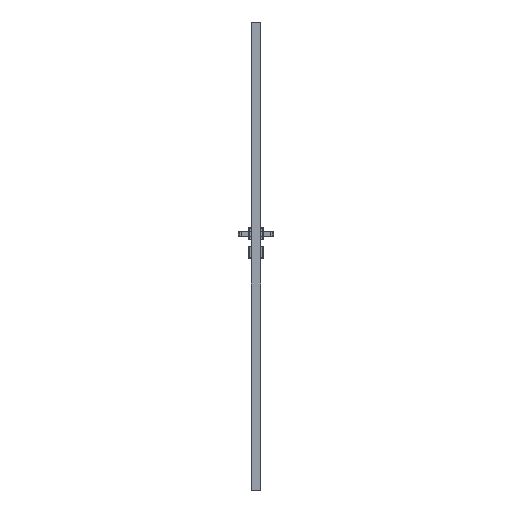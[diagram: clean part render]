
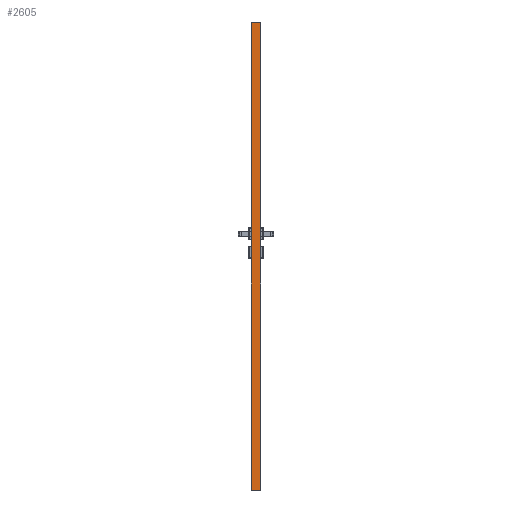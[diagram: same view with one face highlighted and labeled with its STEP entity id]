
A CAD part, left-side view. The second image highlights one B-rep face of the part: STEP entity #2605.
In plain terms, the highlighted planar face has unit normal (-1, 0, 0).
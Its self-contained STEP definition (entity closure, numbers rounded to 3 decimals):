
#2605=ADVANCED_FACE('',(#4561),#3797,.F.);
#3797=PLANE('',#21162);
#4561=FACE_OUTER_BOUND('',#5809,.T.);
#5809=EDGE_LOOP('',(#7944,#7945,#7946,#7947,#7948,#7949,#7950,#7951,#7952,
#7953,#7954,#7955,#7956,#7957,#7958,#7959,#7960,#7961,#7962,#7963,#7964,
#7965));
#7944=ORIENTED_EDGE('',*,*,#14918,.T.);
#7945=ORIENTED_EDGE('',*,*,#14919,.T.);
#7946=ORIENTED_EDGE('',*,*,#14903,.F.);
#7947=ORIENTED_EDGE('',*,*,#14920,.T.);
#7948=ORIENTED_EDGE('',*,*,#14921,.T.);
#7949=ORIENTED_EDGE('',*,*,#14922,.T.);
#7950=ORIENTED_EDGE('',*,*,#14912,.F.);
#7951=ORIENTED_EDGE('',*,*,#14923,.F.);
#7952=ORIENTED_EDGE('',*,*,#14916,.T.);
#7953=ORIENTED_EDGE('',*,*,#14924,.T.);
#7954=ORIENTED_EDGE('',*,*,#14925,.T.);
#7955=ORIENTED_EDGE('',*,*,#14926,.T.);
#7956=ORIENTED_EDGE('',*,*,#14910,.T.);
#7957=ORIENTED_EDGE('',*,*,#14927,.T.);
#7958=ORIENTED_EDGE('',*,*,#14928,.T.);
#7959=ORIENTED_EDGE('',*,*,#14929,.T.);
#7960=ORIENTED_EDGE('',*,*,#14908,.T.);
#7961=ORIENTED_EDGE('',*,*,#14930,.T.);
#7962=ORIENTED_EDGE('',*,*,#14931,.T.);
#7963=ORIENTED_EDGE('',*,*,#14932,.T.);
#7964=ORIENTED_EDGE('',*,*,#14879,.F.);
#7965=ORIENTED_EDGE('',*,*,#14933,.T.);
#12958=VERTEX_POINT('',#30511);
#12960=VERTEX_POINT('',#30514);
#12982=VERTEX_POINT('',#30562);
#12983=VERTEX_POINT('',#30563);
#12984=VERTEX_POINT('',#30568);
#12985=VERTEX_POINT('',#30570);
#12986=VERTEX_POINT('',#30574);
#12987=VERTEX_POINT('',#30576);
#12988=VERTEX_POINT('',#30580);
#12989=VERTEX_POINT('',#30581);
#12990=VERTEX_POINT('',#30586);
#12991=VERTEX_POINT('',#30588);
#12992=VERTEX_POINT('',#30592);
#12993=VERTEX_POINT('',#30593);
#12994=VERTEX_POINT('',#30596);
#12995=VERTEX_POINT('',#30598);
#12996=VERTEX_POINT('',#30602);
#12997=VERTEX_POINT('',#30604);
#12998=VERTEX_POINT('',#30607);
#12999=VERTEX_POINT('',#30609);
#13000=VERTEX_POINT('',#30612);
#13001=VERTEX_POINT('',#30614);
#14879=EDGE_CURVE('',#12958,#12960,#17567,.T.);
#14903=EDGE_CURVE('',#12982,#12983,#17591,.T.);
#14908=EDGE_CURVE('',#12984,#12985,#17596,.T.);
#14910=EDGE_CURVE('',#12987,#12986,#17598,.T.);
#14912=EDGE_CURVE('',#12988,#12989,#17600,.T.);
#14916=EDGE_CURVE('',#12991,#12990,#17604,.T.);
#14918=EDGE_CURVE('',#12992,#12993,#17606,.T.);
#14919=EDGE_CURVE('',#12993,#12983,#17607,.T.);
#14920=EDGE_CURVE('',#12982,#12994,#17608,.T.);
#14921=EDGE_CURVE('',#12994,#12995,#17609,.T.);
#14922=EDGE_CURVE('',#12995,#12989,#17610,.T.);
#14923=EDGE_CURVE('',#12991,#12988,#17611,.T.);
#14924=EDGE_CURVE('',#12990,#12996,#17612,.T.);
#14925=EDGE_CURVE('',#12996,#12997,#17613,.T.);
#14926=EDGE_CURVE('',#12997,#12987,#17614,.T.);
#14927=EDGE_CURVE('',#12986,#12998,#17615,.T.);
#14928=EDGE_CURVE('',#12998,#12999,#17616,.T.);
#14929=EDGE_CURVE('',#12999,#12984,#17617,.T.);
#14930=EDGE_CURVE('',#12985,#13000,#17618,.T.);
#14931=EDGE_CURVE('',#13000,#13001,#17619,.T.);
#14932=EDGE_CURVE('',#13001,#12960,#17620,.T.);
#14933=EDGE_CURVE('',#12958,#12992,#17621,.T.);
#17567=LINE('',#30513,#19355);
#17591=LINE('',#30561,#19379);
#17596=LINE('',#30571,#19384);
#17598=LINE('',#30575,#19386);
#17600=LINE('',#30579,#19388);
#17604=LINE('',#30587,#19392);
#17606=LINE('',#30591,#19394);
#17607=LINE('',#30594,#19395);
#17608=LINE('',#30595,#19396);
#17609=LINE('',#30597,#19397);
#17610=LINE('',#30599,#19398);
#17611=LINE('',#30600,#19399);
#17612=LINE('',#30601,#19400);
#17613=LINE('',#30603,#19401);
#17614=LINE('',#30605,#19402);
#17615=LINE('',#30606,#19403);
#17616=LINE('',#30608,#19404);
#17617=LINE('',#30610,#19405);
#17618=LINE('',#30611,#19406);
#17619=LINE('',#30613,#19407);
#17620=LINE('',#30615,#19408);
#17621=LINE('',#30616,#19409);
#19355=VECTOR('',#23602,1.);
#19379=VECTOR('',#23630,1.);
#19384=VECTOR('',#23637,1.);
#19386=VECTOR('',#23641,1.);
#19388=VECTOR('',#23645,1.);
#19392=VECTOR('',#23651,1.);
#19394=VECTOR('',#23655,1.);
#19395=VECTOR('',#23656,1.);
#19396=VECTOR('',#23657,1.);
#19397=VECTOR('',#23658,1.);
#19398=VECTOR('',#23659,1.);
#19399=VECTOR('',#23660,1.);
#19400=VECTOR('',#23661,1.);
#19401=VECTOR('',#23662,1.);
#19402=VECTOR('',#23663,1.);
#19403=VECTOR('',#23664,1.);
#19404=VECTOR('',#23665,1.);
#19405=VECTOR('',#23666,1.);
#19406=VECTOR('',#23667,1.);
#19407=VECTOR('',#23668,1.);
#19408=VECTOR('',#23669,1.);
#19409=VECTOR('',#23670,1.);
#21162=AXIS2_PLACEMENT_3D('',#30617,#23671,#23672);
#23602=DIRECTION('',(0.,0.,-1.));
#23630=DIRECTION('',(0.,0.,-1.));
#23637=DIRECTION('',(0.,0.,-1.));
#23641=DIRECTION('',(0.,0.,-1.));
#23645=DIRECTION('',(0.,0.,-1.));
#23651=DIRECTION('',(0.,0.,-1.));
#23655=DIRECTION('',(0.,0.,1.));
#23656=DIRECTION('',(0.,-1.,0.));
#23657=DIRECTION('',(0.,1.,0.));
#23658=DIRECTION('',(0.,0.,1.));
#23659=DIRECTION('',(0.,-1.,0.));
#23660=DIRECTION('',(0.,-1.,0.));
#23661=DIRECTION('',(0.,-1.,0.));
#23662=DIRECTION('',(0.,0.,-1.));
#23663=DIRECTION('',(0.,1.,0.));
#23664=DIRECTION('',(0.,-1.,0.));
#23665=DIRECTION('',(0.,0.,-1.));
#23666=DIRECTION('',(0.,1.,0.));
#23667=DIRECTION('',(0.,-0.707,-0.707));
#23668=DIRECTION('',(0.,-1.,0.));
#23669=DIRECTION('',(0.,-0.707,0.707));
#23670=DIRECTION('',(0.,1.,0.));
#23671=DIRECTION('',(1.,0.,0.));
#23672=DIRECTION('',(0.,0.,-1.));
#30511=CARTESIAN_POINT('',(-309.,-39.3,887.));
#30513=CARTESIAN_POINT('',(-309.,-39.3,2017.));
#30514=CARTESIAN_POINT('',(-309.,-39.3,2.));
#30561=CARTESIAN_POINT('',(-309.,-39.3,2017.));
#30562=CARTESIAN_POINT('',(-309.,-39.3,1243.));
#30563=CARTESIAN_POINT('',(-309.,-39.3,893.));
#30568=CARTESIAN_POINT('',(-309.,0.,887.));
#30570=CARTESIAN_POINT('',(-309.,0.,2.));
#30571=CARTESIAN_POINT('',(-309.,0.,2017.));
#30574=CARTESIAN_POINT('',(-309.,0.,893.));
#30575=CARTESIAN_POINT('',(-309.,0.,2017.));
#30576=CARTESIAN_POINT('',(-309.,0.,1243.));
#30579=CARTESIAN_POINT('',(-309.,-39.3,2017.));
#30580=CARTESIAN_POINT('',(-309.,-39.3,2017.));
#30581=CARTESIAN_POINT('',(-309.,-39.3,1249.));
#30586=CARTESIAN_POINT('',(-309.,0.,1249.));
#30587=CARTESIAN_POINT('',(-309.,0.,2017.));
#30588=CARTESIAN_POINT('',(-309.,0.,2017.));
#30591=CARTESIAN_POINT('',(-309.,-38.4,893.));
#30592=CARTESIAN_POINT('',(-309.,-38.4,887.));
#30593=CARTESIAN_POINT('',(-309.,-38.4,893.));
#30594=CARTESIAN_POINT('',(-309.,-39.3,893.));
#30595=CARTESIAN_POINT('',(-309.,-39.3,1243.));
#30596=CARTESIAN_POINT('',(-309.,-38.4,1243.));
#30597=CARTESIAN_POINT('',(-309.,-38.4,1243.));
#30598=CARTESIAN_POINT('',(-309.,-38.4,1249.));
#30599=CARTESIAN_POINT('',(-309.,-38.4,1249.));
#30600=CARTESIAN_POINT('',(-309.,0.,2017.));
#30601=CARTESIAN_POINT('',(-309.,-0.9,1249.));
#30602=CARTESIAN_POINT('',(-309.,-0.9,1249.));
#30603=CARTESIAN_POINT('',(-309.,-0.9,1243.));
#30604=CARTESIAN_POINT('',(-309.,-0.9,1243.));
#30605=CARTESIAN_POINT('',(-309.,0.,1243.));
#30606=CARTESIAN_POINT('',(-309.,0.,893.));
#30607=CARTESIAN_POINT('',(-309.,-0.9,893.));
#30608=CARTESIAN_POINT('',(-309.,-0.9,893.));
#30609=CARTESIAN_POINT('',(-309.,-0.9,887.));
#30610=CARTESIAN_POINT('',(-309.,-0.9,887.));
#30611=CARTESIAN_POINT('',(-309.,0.,2.));
#30612=CARTESIAN_POINT('',(-309.,-2.,0.));
#30613=CARTESIAN_POINT('',(-309.,0.,0.));
#30614=CARTESIAN_POINT('',(-309.,-37.3,0.));
#30615=CARTESIAN_POINT('',(-309.,-39.3,2.));
#30616=CARTESIAN_POINT('',(-309.,-38.4,887.));
#30617=CARTESIAN_POINT('',(-309.,0.,2017.));
